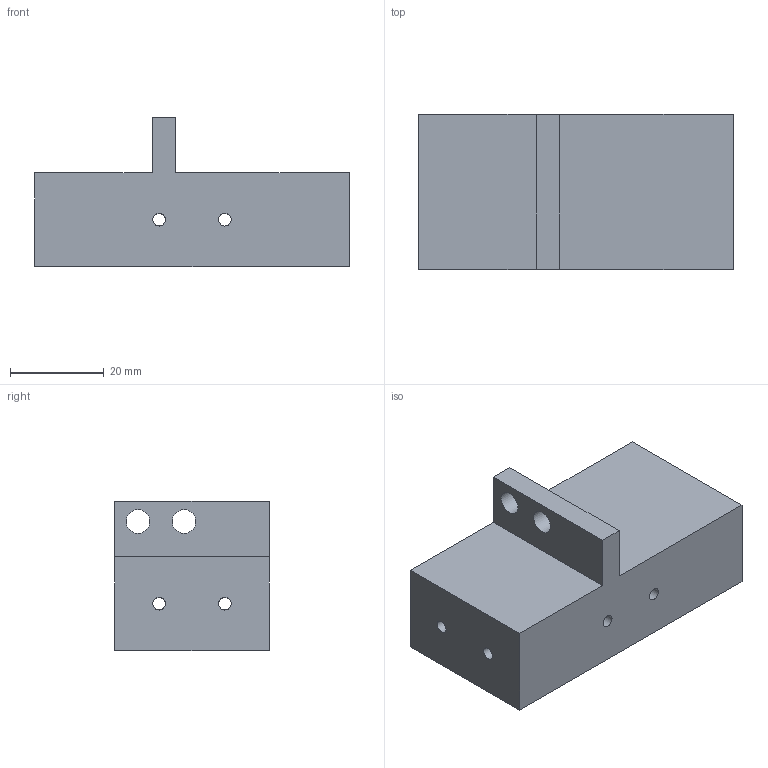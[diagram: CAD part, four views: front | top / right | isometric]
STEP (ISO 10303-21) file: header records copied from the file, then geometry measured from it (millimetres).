
FILE_DESCRIPTION(/* description */ ('STEP AP242 Edition 2','CAx-IF Rec.Pracs.---Representation and Presentation of Product Manufacturing Information (PMI)---4.0---2014-10-13','CAx-IF Rec.Pracs.---3D Tessellated Geometry---0.4---2014-09-14','2;1','CAx-IF Rec.Pracs.---User Defined Attributes---1.5---2016-08-15'),/* implementation_level */ '2;1');
FILE_NAME(/* name */ 'Arm Parts - XConnector',/* time_stamp */ '2026-04-22T00:04:14Z',/* author */ (''),/* organization */ (''),/* preprocessor_version */ 'ST-DEVELOPER v20',/* originating_system */ 'ONSHAPE BY PTC INC, 1.213',/* authorisation */ ' ');
FILE_SCHEMA (('AP242_MANAGED_MODEL_BASED_3D_ENGINEERING_MIM_LF { 1 0 10303 442 3 1 4 }'));
Length unit declared in the file: metre
Products named in the file (1): XConnector
Bounding box: 67 x 33 x 31.8 mm (x, y, z)
Volume: 44878 mm3; surface area: 10931.4 mm2
Topology: 1 solids, 1 shells, 24 faces, 70 edges, 40 vertices
Faces by surface type: cylinder 14, plane 10
Full cylindrical faces by diameter (mm): 2.7 x12, 5 x2
Entity records: 738 total; most frequent: DIRECTION 130, CARTESIAN_POINT 113, ORIENTED_EDGE 104, AXIS2_PLACEMENT_3D 53, EDGE_CURVE 52, EDGE_LOOP 50, FACE_BOUND 50, VERTEX_POINT 36
